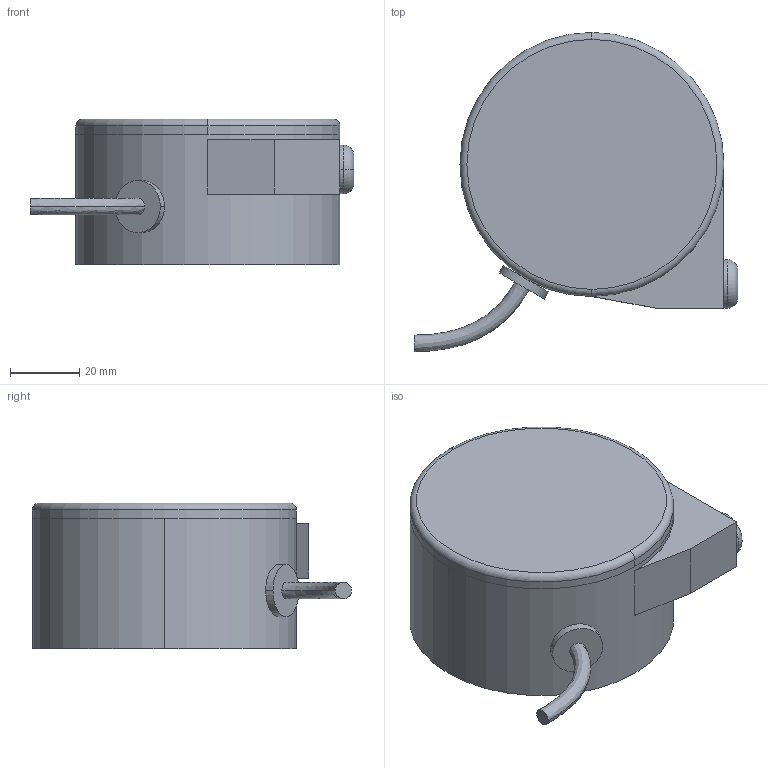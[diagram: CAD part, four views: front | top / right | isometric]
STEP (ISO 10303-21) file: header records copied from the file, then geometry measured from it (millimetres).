
FILE_DESCRIPTION (( 'STEP AP214' ), '1' );
FILE_NAME ('D-540_D-5400_Assem0.STEP', '2024-07-18T02:19:18', ( '' ), ( '' ), 'SwSTEP 2.0', 'SolidWorks 2023', '' );
FILE_SCHEMA (( 'AUTOMOTIVE_DESIGN' ));
Length unit declared in the file: millimetre
Products named in the file (3): D-540_D-5400_Part1; D-540_D-5400_Part1_1; D-540_D-5400_Assem0
Assembly tree (2 placements, depth 2):
  D-540_D-5400_Assem0
    D-540_D-5400_Part1
    D-540_D-5400_Part1_1
Bounding box: 93.18 x 91.87 x 42 mm (x, y, z)
Volume: 198215.6 mm3; surface area: 30450.6 mm2
Topology: 3 solids, 3 shells, 42 faces, 81 edges, 52 vertices
Faces by surface type: cylinder 18, plane 18, torus 4, bspline 2
Entity records: 1264 total; most frequent: CARTESIAN_POINT 272, DIRECTION 219, ORIENTED_EDGE 162, AXIS2_PLACEMENT_3D 95, EDGE_CURVE 81, VERTEX_POINT 52, CIRCLE 50, EDGE_LOOP 49
